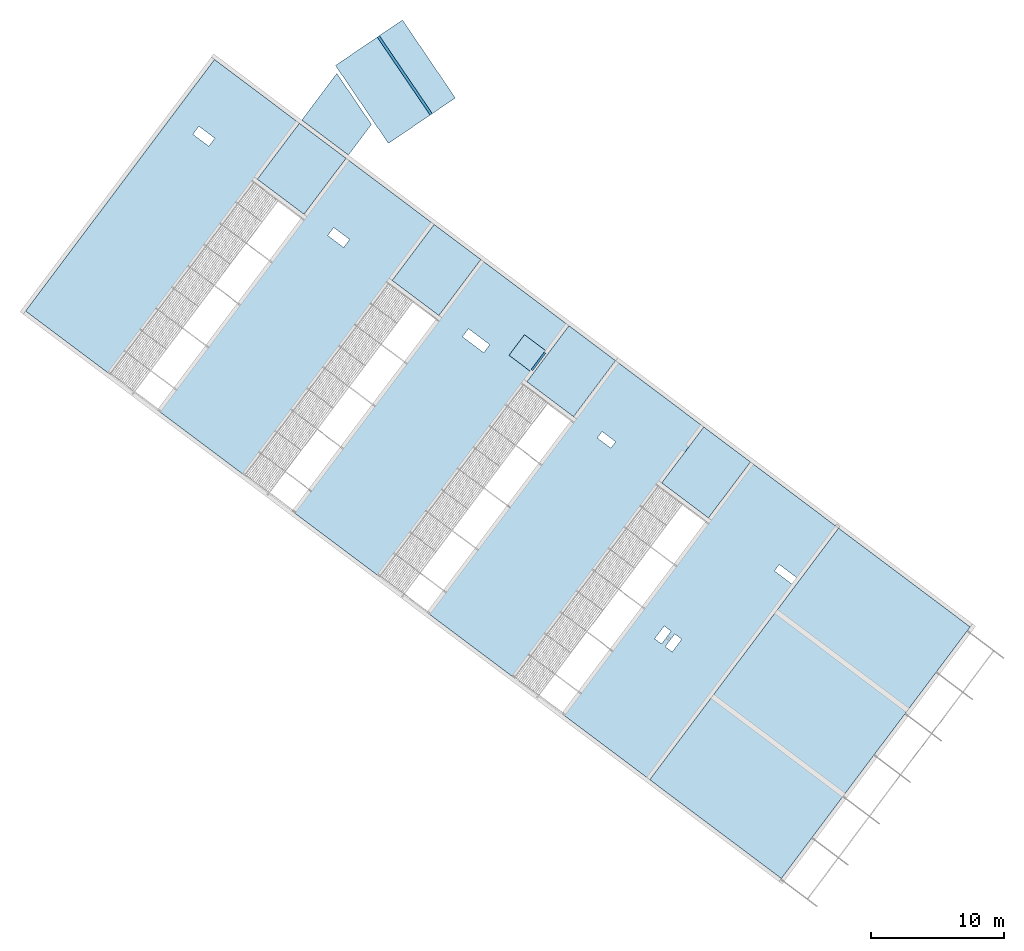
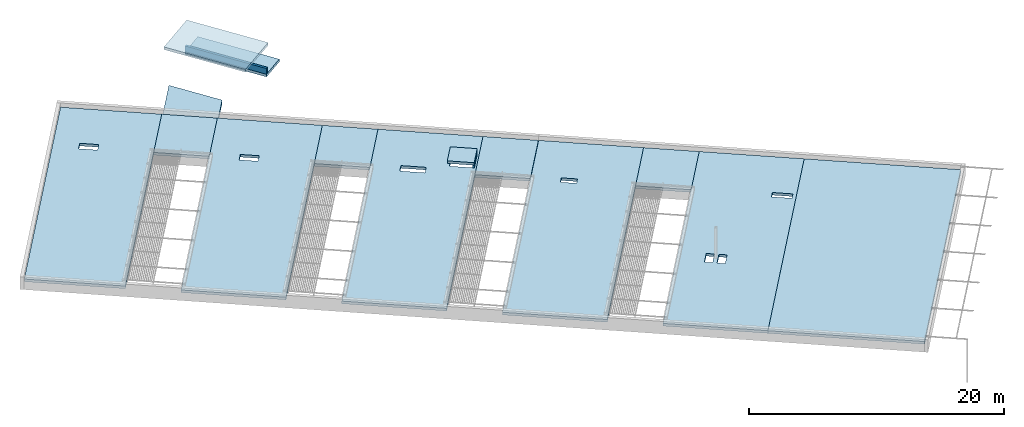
# One storey, part 92 of 95: 14 slabs, 2 walls, 8 openings.
"""IFC2X3 building model written with IfcOpenShell, lengths in metres."""

from ifc_helpers import new_model, entity, si_unit, converted_unit, derived_unit, direction, frame, frame_2d, origin, origin_2d_with_axis, place, context, subcontext, project, spatial, polyline, rectangle, outline, extrude, material, layer, layer_set, layer_usage, type_object, element, save


model = new_model("IFC2X3")

# Units and contexts
model_context = context("Model", 3, precision=1e-05, world=origin(), true_north=direction((6.123031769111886e-17, 1.0)))
body_context = subcontext(model_context, "Body", "Model", "MODEL_VIEW")
ifc_project = project(units=[si_unit("LENGTHUNIT", "METRE"), si_unit("AREAUNIT", "SQUARE_METRE"), si_unit("VOLUMEUNIT", "CUBIC_METRE"), converted_unit("PLANEANGLEUNIT", "DEGREE", entity("IfcRatioMeasure", 0.017453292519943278), si_unit("PLANEANGLEUNIT", "RADIAN"), dimensions=[0, 0, 0, 0, 0, 0, 0]), si_unit("MASSUNIT", "GRAM", prefix="KILO"), derived_unit("MASSDENSITYUNIT", [(si_unit("MASSUNIT", "GRAM", prefix="KILO"), 1), (si_unit("LENGTHUNIT", "METRE"), -3)]), derived_unit("IONCONCENTRATIONUNIT", [(si_unit("MASSUNIT", "GRAM", prefix="KILO"), 1), (si_unit("LENGTHUNIT", "METRE"), -3)]), derived_unit("MOMENTOFINERTIAUNIT", [(si_unit("LENGTHUNIT", "METRE"), 4)]), si_unit("TIMEUNIT", "SECOND"), si_unit("FREQUENCYUNIT", "HERTZ"), si_unit("THERMODYNAMICTEMPERATUREUNIT", "DEGREE_CELSIUS"), derived_unit("THERMALTRANSMITTANCEUNIT", [(si_unit("MASSUNIT", "GRAM", prefix="KILO"), 1), (si_unit("THERMODYNAMICTEMPERATUREUNIT", "KELVIN"), -1), (si_unit("TIMEUNIT", "SECOND"), -3)]), derived_unit("THERMALCONDUCTANCEUNIT", [(si_unit("MASSUNIT", "GRAM", prefix="KILO"), 1), (si_unit("THERMODYNAMICTEMPERATUREUNIT", "KELVIN"), -1), (si_unit("TIMEUNIT", "SECOND"), -3), (si_unit("LENGTHUNIT", "METRE"), 1)]), derived_unit("VOLUMETRICFLOWRATEUNIT", [(si_unit("LENGTHUNIT", "METRE"), 3), (si_unit("TIMEUNIT", "SECOND"), -1)]), derived_unit("MASSFLOWRATEUNIT", [(si_unit("MASSUNIT", "GRAM", prefix="KILO"), 1), (si_unit("TIMEUNIT", "SECOND"), -1)]), derived_unit("ROTATIONALFREQUENCYUNIT", [(si_unit("TIMEUNIT", "SECOND"), -1)]), si_unit("ELECTRICCURRENTUNIT", "AMPERE"), si_unit("ELECTRICVOLTAGEUNIT", "VOLT"), si_unit("POWERUNIT", "WATT"), si_unit("FORCEUNIT", "NEWTON", prefix="KILO"), si_unit("ILLUMINANCEUNIT", "LUX"), si_unit("LUMINOUSFLUXUNIT", "LUMEN"), si_unit("LUMINOUSINTENSITYUNIT", "CANDELA"), derived_unit("USERDEFINED", [(si_unit("MASSUNIT", "GRAM", prefix="KILO"), -1), (si_unit("LENGTHUNIT", "METRE"), -2), (si_unit("TIMEUNIT", "SECOND"), 3), (si_unit("LUMINOUSFLUXUNIT", "LUMEN"), 1)]), derived_unit("USERDEFINED", [(si_unit("MASSUNIT", "GRAM", prefix="KILO"), 1), (si_unit("TIMEUNIT", "SECOND"), -3), (si_unit("LENGTHUNIT", "METRE"), 3), (si_unit("ELECTRICCURRENTUNIT", "AMPERE"), -2)]), derived_unit("SOUNDPOWERUNIT", [(si_unit("MASSUNIT", "GRAM", prefix="KILO"), 1), (si_unit("TIMEUNIT", "SECOND"), -3), (si_unit("LENGTHUNIT", "METRE"), 2)]), derived_unit("SOUNDPRESSUREUNIT", [(si_unit("MASSUNIT", "GRAM", prefix="KILO"), 1), (si_unit("LENGTHUNIT", "METRE"), -1), (si_unit("TIMEUNIT", "SECOND"), -2)]), derived_unit("LINEARVELOCITYUNIT", [(si_unit("LENGTHUNIT", "METRE"), 1), (si_unit("TIMEUNIT", "SECOND"), -1)]), si_unit("PRESSUREUNIT", "PASCAL"), derived_unit("USERDEFINED", [(si_unit("MASSUNIT", "GRAM", prefix="KILO"), 1), (si_unit("LENGTHUNIT", "METRE"), -2), (si_unit("TIMEUNIT", "SECOND"), -2)]), derived_unit("LINEARFORCEUNIT", [(si_unit("MASSUNIT", "GRAM", prefix="KILO"), 1), (si_unit("TIMEUNIT", "SECOND"), -2)]), derived_unit("PLANARFORCEUNIT", [(si_unit("MASSUNIT", "GRAM", prefix="KILO"), 1), (si_unit("LENGTHUNIT", "METRE"), -1), (si_unit("TIMEUNIT", "SECOND"), -2)]), derived_unit("SPECIFICHEATCAPACITYUNIT", [(si_unit("THERMODYNAMICTEMPERATUREUNIT", "KELVIN"), -1), (si_unit("LENGTHUNIT", "METRE"), 2), (si_unit("TIMEUNIT", "SECOND"), -2)]), derived_unit("HEATINGVALUEUNIT", [(si_unit("LENGTHUNIT", "METRE"), 2), (si_unit("TIMEUNIT", "SECOND"), -2)]), derived_unit("VAPORPERMEABILITYUNIT", [(si_unit("LENGTHUNIT", "METRE"), -1), (si_unit("TIMEUNIT", "SECOND"), 1)]), derived_unit("DYNAMICVISCOSITYUNIT", [(si_unit("MASSUNIT", "GRAM", prefix="KILO"), 1), (si_unit("TIMEUNIT", "SECOND"), -1), (si_unit("LENGTHUNIT", "METRE"), -1)]), derived_unit("THERMALEXPANSIONCOEFFICIENTUNIT", [(si_unit("THERMODYNAMICTEMPERATUREUNIT", "KELVIN"), -1)]), derived_unit("MODULUSOFELASTICITYUNIT", [(si_unit("MASSUNIT", "GRAM", prefix="KILO"), 1), (si_unit("LENGTHUNIT", "METRE"), -1), (si_unit("TIMEUNIT", "SECOND"), -2)]), derived_unit("ISOTHERMALMOISTURECAPACITYUNIT", [(si_unit("LENGTHUNIT", "METRE"), 3), (si_unit("MASSUNIT", "GRAM", prefix="KILO"), -1)]), derived_unit("MOISTUREDIFFUSIVITYUNIT", [(si_unit("TIMEUNIT", "SECOND"), -1), (si_unit("LENGTHUNIT", "METRE"), 2)])], contexts=[model_context])

# Site, building, storey
site_placement = place(None, origin())
site = spatial("IfcSite", under=ifc_project, at=site_placement, Name="Default", CompositionType="ELEMENT")
building_placement = place(site_placement, frame((0.0, 0.0, 235.0), z_axis=(0.0, 0.0, 1.0), x_axis=(-0.7996477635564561, 0.6004693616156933, 0.0)))
building = spatial("IfcBuilding", under=site, at=building_placement, CompositionType="ELEMENT")
storey_placement = place(building_placement, frame((0.0, 0.0, 3.400000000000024)))
storey = spatial("IfcBuildingStorey", under=building, at=storey_placement, Name="PC- Coberta STR", CompositionType="ELEMENT", Elevation=3.400000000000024)

# Slab, opening
ifc_material_1 = material(Name="_Formigó- T1- STR")
ifc_layer_1 = layer(ifc_material_1, 0.24999999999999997)
ifc_layer_set_1 = layer_set([ifc_layer_1], Name="Suelo:STR- L- Formigó- Alveloar- T1- 25 cm")
ifc_layer_usage_1 = layer_usage(ifc_layer_set_1, "AXIS3", "POSITIVE", 0.0)
slab_type_1 = type_object("IfcSlabType", Name="Suelo:STR- L- Formigó- Alveloar- T1- 25 cm", PredefinedType="FLOOR", material=ifc_layer_set_1)
slab_1_placement = place(storey_placement, frame((15.645147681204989, -42.04019175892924, -0.25)))
slab_1 = element("IfcSlab", 1, at=slab_1_placement, inside=storey, type_object=slab_type_1, material=ifc_layer_usage_1, Name="Suelo:STR- L- Formigó- Alveloar- T1- 25 cm", ObjectType="Suelo:STR- L- Formigó- Alveloar- T1- 25 cm", PredefinedType="FLOOR", context=body_context, shape_type="SweptSolid", body=[
    extrude(rectangle(XDim=23.699999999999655, YDim=8.299999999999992, at=frame_2d((-6.349999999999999, 0.0), x_axis=(0.0, -1.0))), frame((10.5, 11.849999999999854, 0.24999999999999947), z_axis=(0.0, 0.0, -1.0), x_axis=(-1.0, 0.0, 0.0)), (0.0, 0.0, 1.0), 0.25),
])
opening_1_placement = place(slab_1_placement, frame((17.974999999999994, 5.180001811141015, 0.24999999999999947)))
element("IfcOpeningElement", 2, at=opening_1_placement, cuts=slab_1, Name="Suelo:STR- L- Formigó- Alveloar- T1- 25 cm:2", ObjectType="Opening", context=body_context, shape_type="SweptSolid", body=[
    extrude(rectangle(XDim=0.5999999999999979, YDim=1.2799999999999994, at=origin_2d_with_axis()), frame((0.0, 0.0, 0.0), z_axis=(0.0, 0.0, -1.0), x_axis=(0.0, -1.0, 0.0)), (0.0, 0.0, 1.0), 0.25),
])

# Slab, openings
slab_2_placement = place(storey_placement, frame((15.645147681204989, -42.04019175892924, -0.25)))
slab_2 = element("IfcSlab", 3, at=slab_2_placement, inside=storey, type_object=slab_type_1, material=ifc_layer_usage_1, Name="Suelo:STR- L- Formigó- Alveloar- T1- 25 cm:2", ObjectType="Suelo:STR- L- Formigó- Alveloar- T1- 25 cm", PredefinedType="FLOOR", context=body_context, shape_type="SweptSolid", body=[
    extrude(rectangle(XDim=23.699999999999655, YDim=8.299999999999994, at=frame_2d((6.350000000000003, 0.0), x_axis=(0.0, -1.0))), frame((10.5, 11.849999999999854, 0.24999999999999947), z_axis=(0.0, 0.0, -1.0), x_axis=(-1.0, 0.0, 0.0)), (0.0, 0.0, 1.0), 0.25),
])
opening_2_placement = place(slab_1_placement, frame((4.753000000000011, 14.384999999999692, 0.24999999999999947)))
element("IfcOpeningElement", 4, at=opening_2_placement, cuts=slab_2, Name="Suelo:STR- L- Formigó- Alveloar- T1- 25 cm:2", ObjectType="Opening", context=body_context, shape_type="SweptSolid", body=[
    extrude(rectangle(XDim=1.2000000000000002, YDim=0.6499999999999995, at=origin_2d_with_axis()), frame((0.0, 0.0, 0.0), z_axis=(0.0, 0.0, -1.0), x_axis=(0.0, -1.0, 0.0)), (0.0, 0.0, 1.0), 0.25),
])
opening_3_placement = place(slab_1_placement, frame((5.753000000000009, 14.384999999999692, 0.24999999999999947)))
element("IfcOpeningElement", 5, at=opening_3_placement, cuts=slab_2, Name="Suelo:STR- L- Formigó- Alveloar- T1- 25 cm:3", ObjectType="Opening", context=body_context, shape_type="SweptSolid", body=[
    extrude(rectangle(XDim=0.6499999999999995, YDim=1.1999999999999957, at=origin_2d_with_axis()), frame((0.0, 0.0, 0.0), z_axis=(0.0, 0.0, -1.0), x_axis=(-1.0, 0.0, 0.0)), (0.0, 0.0, 1.0), 0.25),
])
opening_4_placement = place(slab_1_placement, frame((1.1129999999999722, 5.180001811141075, 0.24999999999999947)))
element("IfcOpeningElement", 6, at=opening_4_placement, cuts=slab_2, Name="Suelo:STR- L- Formigó- Alveloar- T1- 25 cm:4", ObjectType="Opening", context=body_context, shape_type="SweptSolid", body=[
    extrude(rectangle(XDim=0.5999999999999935, YDim=1.6260000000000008, at=origin_2d_with_axis()), frame((0.0, 0.0, 0.0), z_axis=(0.0, 0.0, -1.0), x_axis=(0.0, -1.0, 0.0)), (0.0, 0.0, 1.0), 0.25),
])

# Slabs
slab_3_placement = place(storey_placement, origin())
element("IfcSlab", 7, at=slab_3_placement, inside=storey, type_object=slab_type_1, material=ifc_layer_usage_1, Name="Suelo:STR- L- Formigó- Alveloar- T1- 25 cm", ObjectType="Suelo:STR- L- Formigó- Alveloar- T1- 25 cm", PredefinedType="FLOOR", context=body_context, shape_type="SweptSolid", body=[
    extrude(rectangle(XDim=23.699999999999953, YDim=12.399999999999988, at=frame_2d((1.7763568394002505e-15, 0.0), x_axis=(1.0, 0.0))), frame((9.445147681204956, -30.19019175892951, 0.0), z_axis=(0.0, 0.0, -1.0), x_axis=(0.0, 1.0, 0.0)), (0.0, 0.0, 1.0), 0.25),
])
slab_4_placement = place(storey_placement, origin())
element("IfcSlab", 8, at=slab_4_placement, inside=storey, type_object=slab_type_1, material=ifc_layer_usage_1, Name="Suelo:STR- L- Formigó- Alveloar- T1- 25 cm", ObjectType="Suelo:STR- L- Formigó- Alveloar- T1- 25 cm", PredefinedType="FLOOR", context=body_context, shape_type="SweptSolid", body=[
    extrude(rectangle(XDim=7.1000000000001, YDim=4.099999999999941, at=frame_2d((2.886579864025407e-15, -5.551115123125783e-15), x_axis=(1.0, 0.0))), frame((62.86205926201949, -47.94004188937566, 2.8499999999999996), z_axis=(0.0, 0.0, -1.0), x_axis=(0.9460037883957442, -0.3241555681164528, 0.0)), (0.0, 0.0, 1.0), 0.24999999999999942),
])

# Slab, opening
slab_5_placement = place(storey_placement, frame((41.04514768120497, -42.04019175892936, -0.25)))
slab_5 = element("IfcSlab", 9, at=slab_5_placement, inside=storey, type_object=slab_type_1, material=ifc_layer_usage_1, Name="Suelo:STR- L- Formigó- Alveloar- T1- 25 cm", ObjectType="Suelo:STR- L- Formigó- Alveloar- T1- 25 cm", PredefinedType="FLOOR", context=body_context, shape_type="SweptSolid", body=[
    extrude(rectangle(XDim=23.69999999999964, YDim=8.299999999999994, at=frame_2d((-0.15000000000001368, 0.0), x_axis=(0.0, -1.0))), frame((16.69999999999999, 11.849999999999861, 0.24999999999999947), z_axis=(0.0, 0.0, -1.0), x_axis=(-1.0, 0.0, 0.0)), (0.0, 0.0, 1.0), 0.25),
])
opening_5_placement = place(slab_5_placement, frame((17.864999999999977, 5.105001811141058, 0.24999999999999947)))
element("IfcOpeningElement", 10, at=opening_5_placement, cuts=slab_5, Name="Suelo:STR- L- Formigó- Alveloar- T1- 25 cm:2", ObjectType="Opening", context=body_context, shape_type="SweptSolid", body=[
    extrude(rectangle(XDim=1.499999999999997, YDim=0.7499999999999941, at=origin_2d_with_axis()), frame((0.0, 0.0, 0.0), z_axis=(0.0, 0.0, -1.0), x_axis=(1.0, 0.0, 0.0)), (0.0, 0.0, 1.0), 0.25),
])

# Slab, openings
slab_6_placement = place(storey_placement, frame((41.04514768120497, -42.04019175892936, -0.25)))
slab_6 = element("IfcSlab", 11, at=slab_6_placement, inside=storey, type_object=slab_type_1, material=ifc_layer_usage_1, Name="Suelo:STR- L- Formigó- Alveloar- T1- 25 cm:2", ObjectType="Suelo:STR- L- Formigó- Alveloar- T1- 25 cm", PredefinedType="FLOOR", context=body_context, shape_type="SweptSolid", body=[
    extrude(rectangle(XDim=23.699999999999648, YDim=8.299999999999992, at=frame_2d((12.549999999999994, 0.0), x_axis=(0.0, -1.0))), frame((16.69999999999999, 11.849999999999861, 0.24999999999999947), z_axis=(0.0, 0.0, -1.0), x_axis=(-1.0, 0.0, 0.0)), (0.0, 0.0, 1.0), 0.25),
])
opening_6_placement = place(slab_5_placement, frame((4.914999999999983, 5.105001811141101, 0.24999999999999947)))
element("IfcOpeningElement", 12, at=opening_6_placement, cuts=slab_6, Name="Suelo:STR- L- Formigó- Alveloar- T1- 25 cm:2", ObjectType="Opening", context=body_context, shape_type="SweptSolid", body=[
    extrude(rectangle(XDim=1.999999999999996, YDim=0.7499999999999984, at=origin_2d_with_axis()), frame((0.0, 0.0, 0.0), z_axis=(0.0, 0.0, -1.0), x_axis=(1.0, 0.0, 0.0)), (0.0, 0.0, 1.0), 0.25),
])
opening_7_placement = place(slab_5_placement, frame((1.2124999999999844, 3.527001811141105, 0.24999999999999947)))
element("IfcOpeningElement", 13, at=opening_7_placement, cuts=slab_6, Name="Suelo:STR- L- Formigó- Alveloar- T1- 25 cm:3", ObjectType="Opening", context=body_context, shape_type="SweptSolid", body=[
    extrude(rectangle(XDim=1.6399999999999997, YDim=1.825000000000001, at=origin_2d_with_axis()), frame((0.0, 0.0, 0.0), z_axis=(0.0, 0.0, -1.0), x_axis=(0.0, -1.0, 0.0)), (0.0, 0.0, 1.0), 0.25),
])

# Slab, opening
slab_7_placement = place(storey_placement, frame((41.04514768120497, -42.04019175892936, -0.25)))
slab_7 = element("IfcSlab", 14, at=slab_7_placement, inside=storey, type_object=slab_type_1, material=ifc_layer_usage_1, Name="Suelo:STR- L- Formigó- Alveloar- T1- 25 cm:3", ObjectType="Suelo:STR- L- Formigó- Alveloar- T1- 25 cm", PredefinedType="FLOOR", context=body_context, shape_type="SweptSolid", body=[
    extrude(rectangle(XDim=23.69999999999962, YDim=7.999999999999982, at=frame_2d((-12.699999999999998, 0.0), x_axis=(0.0, -1.0))), frame((16.69999999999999, 11.849999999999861, 0.24999999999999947), z_axis=(0.0, 0.0, -1.0), x_axis=(-1.0, 0.0, 0.0)), (0.0, 0.0, 1.0), 0.25),
])
opening_8_placement = place(slab_5_placement, frame((30.564999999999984, 5.1050018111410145, 0.24999999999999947)))
element("IfcOpeningElement", 15, at=opening_8_placement, cuts=slab_7, Name="Suelo:STR- L- Formigó- Alveloar- T1- 25 cm:2", ObjectType="Opening", context=body_context, shape_type="SweptSolid", body=[
    extrude(rectangle(XDim=1.499999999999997, YDim=0.7499999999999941, at=origin_2d_with_axis()), frame((0.0, 0.0, 0.0), z_axis=(0.0, 0.0, -1.0), x_axis=(1.0, 0.0, 0.0)), (0.0, 0.0, 1.0), 0.25),
])

# Slabs
ifc_layer_2 = layer(ifc_material_1, 0.24999999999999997)
ifc_layer_set_2 = layer_set([ifc_layer_2], Name="Suelo:STR- L- Formigó- Llosa- T1- 25 cm")
ifc_layer_usage_2 = layer_usage(ifc_layer_set_2, "AXIS3", "POSITIVE", 0.0)
slab_type_2 = type_object("IfcSlabType", Name="Suelo:STR- L- Formigó- Llosa- T1- 25 cm", PredefinedType="FLOOR", material=ifc_layer_set_2)
slab_8_placement = place(storey_placement, origin())
element("IfcSlab", 16, at=slab_8_placement, inside=storey, type_object=slab_type_2, material=ifc_layer_usage_2, Name="Suelo:STR- L- Formigó- Llosa- T1- 25 cm", ObjectType="Suelo:STR- L- Formigó- Llosa- T1- 25 cm", PredefinedType="FLOOR", context=body_context, shape_type="SweptSolid", body=[
    extrude(rectangle(XDim=5.275000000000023, YDim=4.399999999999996, at=frame_2d((-4.440892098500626e-15, 0.0), x_axis=(1.0, 0.0))), frame((26.145147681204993, -39.40269175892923, 0.0), z_axis=(0.0, 0.0, -1.0), x_axis=(0.0, 1.0, 0.0)), (0.0, 0.0, 1.0), 0.25),
])
slab_9_placement = place(storey_placement, origin())
element("IfcSlab", 17, at=slab_9_placement, inside=storey, type_object=slab_type_2, material=ifc_layer_usage_2, Name="Suelo:STR- L- Formigó- Llosa- T1- 25 cm", ObjectType="Suelo:STR- L- Formigó- Llosa- T1- 25 cm", PredefinedType="FLOOR", context=body_context, shape_type="SweptSolid", body=[
    extrude(rectangle(XDim=7.100000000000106, YDim=2.300000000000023, at=origin_2d_with_axis()), frame((61.9220081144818, -50.683452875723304, 0.0), z_axis=(0.0, 0.0, -1.0), x_axis=(0.9460037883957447, -0.32415556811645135, 0.0)), (0.0, 0.0, 1.0), 0.24999999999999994),
])
slab_10_placement = place(storey_placement, frame((36.65996019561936, -42.04019175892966, -0.25)))
element("IfcSlab", 18, at=slab_10_placement, inside=storey, type_object=slab_type_2, material=ifc_layer_usage_2, Name="Suelo:STR- L- Formigó- Llosa- T1- 25 cm", ObjectType="Suelo:STR- L- Formigó- Llosa- T1- 25 cm", PredefinedType="FLOOR", context=body_context, shape_type="SweptSolid", body=[
    extrude(rectangle(XDim=5.275, YDim=4.3851874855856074, at=frame_2d((12.7, 0.0), x_axis=(0.0, -1.0))), frame((14.892593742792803, 2.6375000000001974, 0.24999999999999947), z_axis=(0.0, 0.0, -1.0), x_axis=(-1.0, 0.0, 0.0)), (0.0, 0.0, 1.0), 0.25),
])
slab_11_placement = place(storey_placement, frame((36.65996019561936, -42.04019175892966, -0.25)))
element("IfcSlab", 19, at=slab_11_placement, inside=storey, type_object=slab_type_2, material=ifc_layer_usage_2, Name="Suelo:STR- L- Formigó- Llosa- T1- 25 cm:2", ObjectType="Suelo:STR- L- Formigó- Llosa- T1- 25 cm", PredefinedType="FLOOR", context=body_context, shape_type="SweptSolid", body=[
    extrude(rectangle(XDim=5.275000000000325, YDim=4.399999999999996, at=frame_2d((0.007406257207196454, 0.0), x_axis=(0.0, -1.0))), frame((14.892593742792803, 2.6375000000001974, 0.24999999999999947), z_axis=(0.0, 0.0, -1.0), x_axis=(-1.0, 0.0, 0.0)), (0.0, 0.0, 1.0), 0.25),
])
slab_12_placement = place(storey_placement, frame((36.65996019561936, -42.04019175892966, -0.25)))
element("IfcSlab", 20, at=slab_12_placement, inside=storey, type_object=slab_type_2, material=ifc_layer_usage_2, Name="Suelo:STR- L- Formigó- Llosa- T1- 25 cm:3", ObjectType="Suelo:STR- L- Formigó- Llosa- T1- 25 cm", PredefinedType="FLOOR", context=body_context, shape_type="SweptSolid", body=[
    extrude(rectangle(XDim=5.275000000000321, YDim=4.399999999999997, at=frame_2d((-12.692593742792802, 0.0), x_axis=(0.0, -1.0))), frame((14.892593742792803, 2.6375000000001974, 0.24999999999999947), z_axis=(0.0, 0.0, -1.0), x_axis=(-1.0, 0.0, 0.0)), (0.0, 0.0, 1.0), 0.25),
])
slab_13_placement = place(storey_placement, origin())
element("IfcSlab", 21, at=slab_13_placement, inside=storey, type_object=slab_type_2, material=ifc_layer_usage_2, Name="Suelo:STR- L- Formigó- Llosa- T1- 25 cm", ObjectType="Suelo:STR- L- Formigó- Llosa- T1- 25 cm", PredefinedType="FLOOR", context=body_context, shape_type="SweptSolid", body=[
    extrude(rectangle(XDim=1.9400000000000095, YDim=2.125000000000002, at=origin_2d_with_axis()), frame((42.25764768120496, -38.51318994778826, 0.6000000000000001), z_axis=(0.0, 0.0, -1.0), x_axis=(0.0, 1.0, 0.0)), (0.0, 0.0, 1.0), 0.25),
])
ifc_layer_3 = layer(ifc_material_1, 0.29999999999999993)
ifc_layer_set_3 = layer_set([ifc_layer_3], Name="Suelo:STR- L- Formigó- Llosa- T1- 30 cm")
ifc_layer_usage_3 = layer_usage(ifc_layer_set_3, "AXIS3", "POSITIVE", 0.0)
slab_type_3 = type_object("IfcSlabType", Name="Suelo:STR- L- Formigó- Llosa- T1- 30 cm", PredefinedType="FLOOR", material=ifc_layer_set_3)
slab_14_placement = place(storey_placement, origin())
element("IfcSlab", 22, at=slab_14_placement, inside=storey, type_object=slab_type_3, material=ifc_layer_usage_3, Name="Suelo:STR- L- Formigó- Llosa- T1- 30 cm", ObjectType="Suelo:STR- L- Formigó- Llosa- T1- 30 cm", PredefinedType="FLOOR", context=body_context, shape_type="SweptSolid", body=[
    extrude(outline(polyline([(-1.0687868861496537, -2.1973036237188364), (1.8217100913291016, -2.1973036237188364), (1.8217100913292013, 2.1973036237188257), (-2.5746332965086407, 2.19730362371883), (-1.0687868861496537, -2.1973036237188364)])), frame((64.24784405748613, -44.16190185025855, -0.5), z_axis=(0.0, 0.0, -1.0), x_axis=(0.0, 1.0, 0.0)), (0.0, 0.0, 1.0), 0.30000000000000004),
])

# Walls
ifc_material_2 = material(Name="Muro por defecto")
ifc_layer_4 = layer(ifc_material_2, 0.2)
ifc_layer_set_4 = layer_set([ifc_layer_4], Name="Muro básico:Muro 1")
ifc_layer_usage_4 = layer_usage(ifc_layer_set_4, "AXIS2", "NEGATIVE", 0.1)
wall_type_1 = type_object("IfcWallType", Name="Muro básico:Muro 1", PredefinedType="STANDARD", material=ifc_layer_set_4)
wall_1_placement = place(storey_placement, frame((58.9040580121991, -48.539396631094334, 0.0), z_axis=(0.0, 0.0, 1.0), x_axis=(0.9460037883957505, -0.32415556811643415, 0.0)))
element("IfcWallStandardCase", 23, at=wall_1_placement, inside=storey, type_object=wall_type_1, material=ifc_layer_usage_4, Name="Muro básico:Muro 1", ObjectType="Muro básico:Muro 1", context=body_context, shape_type="SweptSolid", body=[
    extrude(rectangle(XDim=7.100000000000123, YDim=0.1999999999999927, at=frame_2d((3.5500000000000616, 2.768618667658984e-15), x_axis=(-1.0, 0.0))), origin(), (0.0, 0.0, 1.0), 0.5500000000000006),
])
ifc_layer_5 = layer(ifc_material_1, 0.14999999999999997)
ifc_layer_set_5 = layer_set([ifc_layer_5], Name="Muro básico:STR- M- Bloc Formigó- T1- 15 cm")
ifc_layer_usage_5 = layer_usage(ifc_layer_set_5, "AXIS2", "NEGATIVE", 0.07499999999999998)
wall_type_2 = type_object("IfcWallType", Name="Muro básico:STR- M- Bloc Formigó- T1- 15 cm", PredefinedType="STANDARD", material=ifc_layer_set_5)
wall_2_placement = place(storey_placement, frame((41.27014768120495, -37.693189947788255, 0.0), z_axis=(0.0, 0.0, 1.0), x_axis=(0.0, -1.0, 0.0)))
element("IfcWallStandardCase", 24, at=wall_2_placement, inside=storey, type_object=wall_type_2, material=ifc_layer_usage_5, Name="Muro básico:STR- M- Bloc Formigó- T1- 15 cm", ObjectType="Muro básico:STR- M- Bloc Formigó- T1- 15 cm", context=body_context, shape_type="SweptSolid", body=[
    extrude(rectangle(XDim=1.6400000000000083, YDim=0.15000000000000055, at=frame_2d((0.8200000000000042, 0.0), x_axis=(-1.0, 0.0))), origin(), (0.0, 0.0, 1.0), 0.3500000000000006),
])

save(model, "model.ifc")
